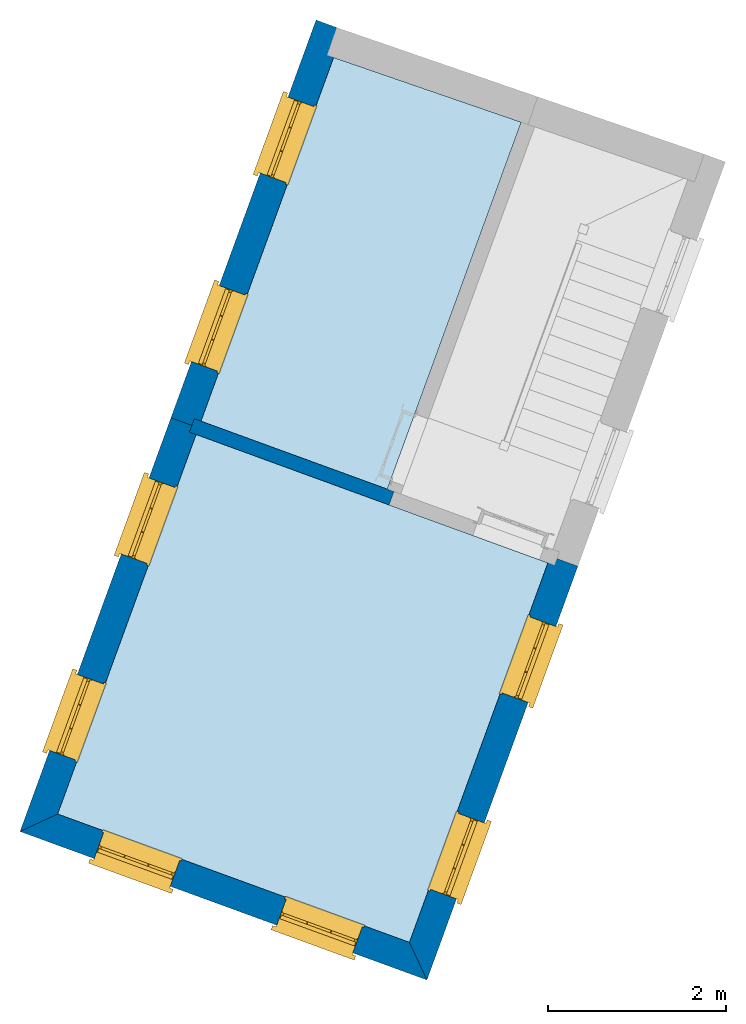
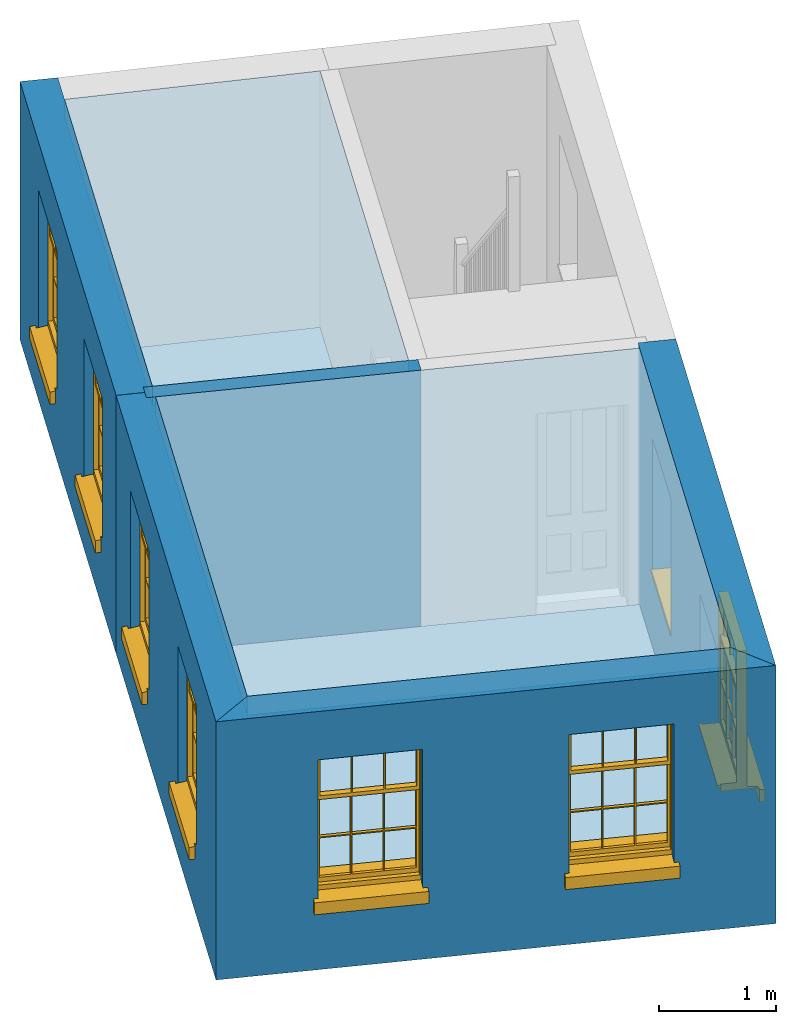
# One storey, part 1 of 2: 8 windows, 5 walls, 4 slabs, 8 openings.
"""IFC4 building model written with IfcOpenShell, lengths in metres."""

from ifc_helpers import new_model, si_unit, frame, origin, origin_with_axes, place, context, subcontext, project, spatial, polyline, outline, extrude, faceted_brep, source, transform, mapped, material, layer, layer_set, layer_usage, type_object, type_shapes, element, fill, save


model = new_model("IFC4")

# Units and contexts
model_context = context("Model", 3, world=origin_with_axes())
body_context = subcontext(model_context, "Body", "Model", "MODEL_VIEW")
ifc_project = project(units=[si_unit("PLANEANGLEUNIT", "RADIAN"), si_unit("MASSUNIT", "GRAM", prefix="KILO"), si_unit("FORCEUNIT", "NEWTON", prefix="KILO"), si_unit("LENGTHUNIT", "METRE"), si_unit("AREAUNIT", "SQUARE_METRE"), si_unit("VOLUMEUNIT", "CUBIC_METRE")], contexts=[model_context, model_context])

# Sites, building, storey
site_1_placement = place(None, origin_with_axes())
site_1 = spatial("IfcSite", under=ifc_project, at=site_1_placement, Name="Tamar")
site_2_placement = place(site_1_placement, origin_with_axes())
site_2 = spatial("IfcSite", under=site_1, at=site_2_placement, Name="Site plot-12", CompositionType="ELEMENT")
building_placement = place(None, origin_with_axes())
building = spatial("IfcBuilding", under=site_2, at=building_placement, Name="Building plot-12", CompositionType="ELEMENT")
storey_placement = place(None, frame((0.0, 0.0, 29.6), z_axis=(0.0, 0.0, 1.0), x_axis=(1.0, 0.0, 0.0)))
storey = spatial("IfcBuildingStorey", under=building, at=storey_placement, Name="plot-12 1", CompositionType="ELEMENT", Elevation=29.6)

# Slabs
slab_1_placement = place(storey_placement, frame((235.425897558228, 305.718815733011, 2.5)))
element("IfcSlab", 1, at=slab_1_placement, inside=storey, Name="My Slab", ObjectType="Slab", PredefinedType="FLOOR", context=body_context, shape_type="SweptSolid", body=[
    extrude(outline(polyline([(0.0, 0.0), (-1.55619557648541, -4.26551805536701), (2.39790390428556, -5.70809830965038), (3.95409948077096, -1.44258025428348), (0.0, 0.0)])), origin_with_axes(), (0.0, 0.0, 1.0), 0.2),
])
slab_2_placement = place(storey_placement, frame((235.425897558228, 305.718815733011, 0.0)))
element("IfcSlab", 2, at=slab_2_placement, inside=storey, Name="My Slab", ObjectType="Slab", PredefinedType="FLOOR", context=body_context, shape_type="SweptSolid", body=[
    extrude(outline(polyline([(0.0, 0.0), (-1.55619557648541, -4.26551805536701), (2.39790390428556, -5.70809830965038), (3.95409948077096, -1.44258025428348), (0.0, 0.0)])), origin_with_axes(), (0.0, 0.0, 1.0), 0.02),
])
slab_3_placement = place(storey_placement, frame((239.080389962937, 309.229694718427, 2.5)))
element("IfcSlab", 3, at=slab_3_placement, inside=storey, Name="My Slab", ObjectType="Slab", PredefinedType="FLOOR", context=body_context, shape_type="SweptSolid", body=[
    extrude(outline(polyline([(0.0, 0.0), (-2.10846795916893, 0.72676009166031), (-3.59965487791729, -3.36056981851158), (-1.50486302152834, -4.12481598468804), (0.0, 0.0)])), origin_with_axes(), (0.0, 0.0, 1.0), 0.2),
])
slab_4_placement = place(storey_placement, frame((239.080389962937, 309.229694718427, 0.0)))
element("IfcSlab", 4, at=slab_4_placement, inside=storey, Name="My Slab", ObjectType="Slab", PredefinedType="FLOOR", context=body_context, shape_type="SweptSolid", body=[
    extrude(outline(polyline([(0.0, 0.0), (-2.10846795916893, 0.72676009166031), (-3.59965487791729, -3.36056981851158), (-1.50486302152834, -4.12481598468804), (0.0, 0.0)])), origin_with_axes(), (0.0, 0.0, 1.0), 0.02),
])

# Wall, openings, windows
ifc_material_1 = material(Name="Masonry")
ifc_layer_1 = layer(ifc_material_1, 0.33, ventilated=False)
ifc_layer_set_1 = layer_set([ifc_layer_1], Name="exterior_0.08_0.25")
ifc_layer_usage_1 = layer_usage(ifc_layer_set_1, "AXIS2", "POSITIVE", -0.25)
wall_type_1 = type_object("IfcWallType", Name="exterior_0.08_0.25", PredefinedType="SOLIDWALL", material=ifc_layer_set_1)
wall_1_placement = place(storey_placement, frame((236.923699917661, 310.05769530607, 0.0), z_axis=(0.0, 0.0, 1.0), x_axis=(-0.342734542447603, -0.939432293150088, 0.0)))
wall_1 = element("IfcWall", 5, at=wall_1_placement, inside=storey, type_object=wall_type_1, material=ifc_layer_usage_1, Name="exterior", context=body_context, shape_type="SweptSolid", body=[
    extrude(outline(polyline([(-0.249999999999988, 0.0800000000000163), (-0.25000000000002, -0.249999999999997), (4.50943219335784, -0.250000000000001), (4.50943219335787, 0.0800000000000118), (-0.249999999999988, 0.0800000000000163)])), origin_with_axes(), (0.0, 0.0, 1.0), 2.7),
])
opening_1_placement = place(wall_1_placement, frame((0.672358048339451, 0.0, 0.75)))
opening_1 = element("IfcOpeningElement", 6, at=opening_1_placement, cuts=wall_1, Name="My Opening", ObjectType="Opening", context=body_context, shape_type="SweptSolid", body=[
    extrude(outline(polyline([(0.0, -0.269999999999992), (0.910000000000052, -0.269999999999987), (0.910000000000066, 1.1), (1.47659662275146e-14, 1.09999999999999), (0.0, -0.269999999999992)])), origin_with_axes(), (0.0, 0.0, 1.0), 1.445),
])
opening_2_placement = place(wall_1_placement, frame((2.92707414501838, 0.0, 0.75)))
opening_2 = element("IfcOpeningElement", 7, at=opening_2_placement, cuts=wall_1, Name="My Opening", ObjectType="Opening", context=body_context, shape_type="SweptSolid", body=[
    extrude(outline(polyline([(0.0, -0.26999999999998), (0.910000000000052, -0.269999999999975), (0.910000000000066, 1.10000000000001), (1.4210854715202e-14, 1.10000000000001), (0.0, -0.26999999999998)])), origin_with_axes(), (0.0, 0.0, 1.0), 1.445),
])
window_type = type_object("IfcWindowType", Name="sash_shorter", PartitioningType="DOUBLE_PANEL_HORIZONTAL", PredefinedType="NOTDEFINED")
shared_shape = source(origin(), body_context, "Body", "Brep", [
    faceted_brep([(0.876875, 0.145, 0.999097), (0.876875, 0.145, 1.411875), (0.9, 0.145, 1.435), (0.033125, 0.145, 1.411875), (0.033125, 0.145, 0.999097), (0.01, 0.145, 1.435), (0.033125, 0.115, 1.411875), (0.01, 0.115, 1.435), (0.033125, 0.115, 0.999097), (0.876875, 0.115, 1.411875), (0.876875, 0.115, 0.999097), (0.9, 0.115, 1.435), (0.033125, 0.145, 0.960972), (0.01, 0.145, 0.960972), (0.033125, 0.145, 0.548195), (0.876875, 0.145, 0.960972), (0.876875, 0.145, 0.548195), (0.9, 0.145, 0.960972), (0.876875, 0.145, 0.538195), (0.876875, 0.145, 0.125417), (0.9, 0.145, 0.077167), (0.033125, 0.145, 0.125417), (0.033125, 0.145, 0.538195), (0.01, 0.145, 0.077167), (0.9, 0.115, 0.960972), (0.01, 0.115, 0.960972), (-0.0425, 0.0, 0.01), (-0.0425, -0.05, 0.001667), (0.0, 0.0, 0.01), (0.9525, 0.0, 0.01), (0.91, 0.0, 0.01), (0.9525, -0.05, 0.001667), (-0.02, 0.33, 0.077167), (0.0, 0.33, 0.077167), (-0.02, 0.36, 0.077167), (0.0, 0.19, 0.077167), (0.01, 0.19, 0.077167), (0.91, 0.19, 0.077167), (0.91, 0.33, 0.077167), (0.9, 0.19, 0.077167), (0.93, 0.33, 0.077167), (0.93, 0.36, 0.077167), (0.01, 0.145, 0.999097), (0.01, 0.175, 0.999097), (0.9, 0.145, 0.999097), (0.9, 0.175, 0.999097), (0.876875, 0.175, 0.125417), (0.876875, 0.175, 0.538195), (0.9, 0.175, 0.077167), (0.876875, 0.175, 0.548195), (0.876875, 0.175, 0.960972), (0.033125, 0.175, 0.125417), (0.01, 0.175, 0.077167), (0.033125, 0.175, 0.538195), (0.033125, 0.175, 0.960972), (0.033125, 0.175, 0.548195), (-0.02, 0.33, 0.052167), (-0.02, 0.36, 0.052167), (0.93, 0.36, 0.052167), (0.93, 0.33, 0.052167), (0.91, 0.33, 0.052167), (0.0, 0.33, 0.052167), (0.91, 0.1, 0.026667), (0.0, 0.1, 0.026667), (-0.0425, -0.05, -0.123333), (0.9525, -0.05, -0.123333), (-0.0425, 0.0, -0.123333), (0.9525, 0.0, -0.123333), (0.01, 0.19, 1.435), (0.9, 0.19, 1.435), (0.0, 0.19, 1.445), (0.91, 0.19, 1.445), (0.01, 0.1, 0.077167), (0.9, 0.1, 0.077167), (0.592292, 0.145, 0.125417), (0.592292, 0.175, 0.125417), (0.317708, 0.175, 0.125417), (0.317708, 0.145, 0.125417), (0.592292, 0.145, 0.548195), (0.317708, 0.145, 0.548195), (0.317708, 0.145, 0.538195), (0.592292, 0.145, 0.538195), (0.592292, 0.175, 0.548195), (0.317708, 0.175, 0.548195), (0.602292, 0.175, 0.548195), (0.602292, 0.145, 0.548195), (0.317708, 0.175, 0.538195), (0.307708, 0.175, 0.125417), (0.307708, 0.175, 0.538195), (0.602292, 0.175, 0.538195), (0.602292, 0.175, 0.125417), (0.592292, 0.175, 0.538195), (0.307708, 0.175, 0.548195), (0.317708, 0.175, 0.960972), (0.307708, 0.175, 0.960972), (0.602292, 0.175, 0.960972), (0.592292, 0.175, 0.960972), (0.307708, 0.145, 0.538195), (0.307708, 0.145, 0.125417), (0.307708, 0.145, 0.548195), (0.307708, 0.145, 0.960972), (0.592292, 0.145, 0.960972), (0.317708, 0.145, 0.960972), (0.602292, 0.145, 0.960972), (0.602292, 0.145, 0.538195), (0.602292, 0.145, 0.125417), (0.317708, 0.115, 1.411875), (0.307708, 0.115, 1.411875), (0.307708, 0.115, 0.999097), (0.317708, 0.115, 0.999097), (0.602292, 0.115, 1.411875), (0.592292, 0.115, 1.411875), (0.592292, 0.115, 0.999097), (0.602292, 0.115, 0.999097), (0.317708, 0.145, 0.999097), (0.307708, 0.145, 0.999097), (0.307708, 0.145, 1.411875), (0.317708, 0.145, 1.411875), (0.602292, 0.145, 0.999097), (0.592292, 0.145, 0.999097), (0.592292, 0.145, 1.411875), (0.602292, 0.145, 1.411875), (0.91, 0.1, 1.445), (0.9, 0.1, 1.435), (0.01, 0.1, 1.435), (0.0, 0.1, 1.445), (0.91, 0.0, 0.0), (0.0, 0.0, 0.0), (0.91, 0.33, 0.0), (0.0, 0.33, 0.0)], [[[0, 1, 2]], [[3, 4, 5]], [[6, 7, 8]], [[9, 10, 11]], [[12, 13, 14]], [[15, 16, 17]], [[18, 19, 20]], [[21, 22, 23]], [[24, 15, 17]], [[13, 12, 25]], [[26, 27, 28]], [[29, 30, 31]], [[32, 33, 34]], [[35, 36, 33]], [[37, 38, 39]], [[40, 41, 38]], [[42, 4, 43]], [[44, 45, 0]], [[46, 47, 48]], [[49, 50, 45]], [[51, 52, 53]], [[54, 55, 43]], [[38, 33, 36, 39]], [[41, 34, 33, 38]], [[56, 32, 34, 57]], [[57, 34, 41, 58]], [[58, 41, 40, 59]], [[57, 58, 60, 61]], [[52, 48, 39, 36]], [[62, 63, 28, 30]], [[27, 31, 30, 28]], [[27, 64, 65, 31]], [[66, 67, 65, 64]], [[2, 5, 68, 69]], [[68, 70, 71, 69]], [[20, 23, 72, 73]], [[73, 72, 63, 62]], [[74, 75, 76, 77]], [[78, 79, 80, 81]], [[78, 82, 83, 79]], [[16, 49, 84, 85]], [[86, 76, 87, 88]], [[89, 90, 75, 91]], [[92, 88, 53, 55]], [[82, 91, 86, 83]], [[93, 83, 92, 94]], [[95, 84, 82, 96]], [[89, 84, 49, 47]], [[97, 88, 87, 98]], [[22, 53, 88, 97]], [[81, 91, 75, 74]], [[80, 86, 91, 81]], [[77, 76, 86, 80]], [[99, 92, 55, 14]], [[100, 94, 92, 99]], [[101, 96, 82, 78]], [[79, 83, 93, 102]], [[85, 84, 95, 103]], [[104, 89, 47, 18]], [[105, 90, 89, 104]], [[104, 18, 16, 85]], [[80, 97, 98, 77]], [[104, 81, 74, 105]], [[103, 101, 78, 85]], [[99, 14, 22, 97]], [[102, 100, 99, 79]], [[106, 107, 108, 109]], [[110, 111, 112, 113]], [[114, 115, 116, 117]], [[118, 119, 120, 121]], [[107, 116, 115, 108]], [[111, 120, 119, 112]], [[109, 114, 117, 106]], [[113, 118, 121, 110]], [[85, 78, 81, 104]], [[84, 89, 91, 82]], [[83, 86, 88, 92]], [[79, 99, 97, 80]], [[109, 112, 119, 114]], [[102, 93, 96, 101]], [[106, 117, 120, 111]], [[98, 87, 51, 21]], [[6, 3, 116, 107]], [[110, 121, 1, 9]], [[19, 46, 90, 105]], [[26, 66, 64, 27]], [[29, 31, 65, 67]], [[25, 24, 112, 109]], [[11, 7, 106, 111]], [[75, 48, 52, 76]], [[43, 45, 96, 93]], [[45, 43, 114, 119]], [[5, 2, 120, 117]], [[24, 25, 102, 101]], [[42, 5, 4]], [[2, 44, 0]], [[49, 45, 48, 47]], [[52, 43, 55, 53]], [[14, 13, 23, 22]], [[20, 17, 16, 18]], [[24, 11, 10]], [[25, 8, 7]], [[8, 4, 3, 6]], [[9, 1, 0, 10]], [[15, 50, 49, 16]], [[18, 47, 46, 19]], [[21, 51, 53, 22]], [[14, 55, 54, 12]], [[44, 2, 69, 45]], [[68, 5, 42, 43]], [[36, 35, 70, 68]], [[39, 69, 71, 37]], [[62, 122, 123, 73]], [[63, 72, 124, 125]], [[8, 108, 115, 4]], [[113, 10, 0, 118]], [[94, 100, 12, 54]], [[17, 20, 73, 24]], [[72, 23, 13, 25]], [[52, 36, 68, 43]], [[69, 39, 48, 45]], [[11, 24, 73, 123]], [[7, 124, 72, 25]], [[23, 77, 98]], [[98, 21, 23]], [[105, 74, 20]], [[20, 19, 105]], [[20, 74, 77, 23]], [[113, 112, 24]], [[24, 10, 113]], [[25, 109, 108]], [[108, 8, 25]], [[110, 9, 11]], [[11, 111, 110]], [[7, 6, 107]], [[107, 106, 7]], [[5, 117, 116]], [[116, 3, 5]], [[121, 120, 2]], [[2, 1, 121]], [[11, 123, 124, 7]], [[122, 125, 124, 123]], [[43, 93, 94]], [[94, 54, 43]], [[96, 45, 95]], [[50, 95, 45]], [[15, 103, 95, 50]], [[48, 75, 90]], [[90, 46, 48]], [[87, 76, 52]], [[52, 51, 87]], [[103, 15, 24]], [[24, 101, 103]], [[100, 102, 25]], [[25, 12, 100]], [[115, 114, 43]], [[43, 4, 115]], [[118, 0, 45]], [[45, 119, 118]], [[71, 70, 125, 122]], [[70, 35, 63, 125]], [[122, 62, 37, 71]], [[126, 67, 66, 127]], [[60, 58, 59]], [[38, 60, 59, 40]], [[61, 56, 57]], [[32, 56, 61, 33]], [[61, 60, 128, 129]], [[62, 60, 38, 37]], [[126, 128, 60, 62]], [[33, 61, 63, 35]], [[61, 129, 127, 63]], [[128, 126, 127, 129]], [[28, 127, 66, 26]], [[63, 127, 28]], [[29, 67, 126, 30]], [[30, 126, 62]]]),
])
type_shapes(window_type, [shared_shape])
window_1_placement = place(storey_placement, frame((236.439612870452, 309.518598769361, 0.75), z_axis=(0.0, 0.0, 1.0), x_axis=(-0.311888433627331, -0.85488338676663, 0.0)))
window_1 = element("IfcWindow", 8, at=window_1_placement, inside=storey, type_object=window_type, Name="toilet outside window", OverallHeight=1.445, OverallWidth=0.91, context=body_context, shape_type="MappedRepresentation", body=[
    mapped(shared_shape, transform((0.0, 0.0, 0.0), scale=1.0)),
])
fill(opening_1, window_1)
window_2_placement = place(storey_placement, frame((235.666843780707, 307.400445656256, 0.75), z_axis=(0.0, 0.0, 1.0), x_axis=(-0.311888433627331, -0.85488338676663, 0.0)))
window_2 = element("IfcWindow", 9, at=window_2_placement, inside=storey, type_object=window_type, Name="toilet outside window", OverallHeight=1.445, OverallWidth=0.91, context=body_context, shape_type="MappedRepresentation", body=[
    mapped(shared_shape, transform((0.0, 0.0, 0.0), scale=1.0)),
])
fill(opening_2, window_2)

wall_2_placement = place(storey_placement, frame((235.378161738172, 305.821389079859, 0.0), z_axis=(0.0, 0.0, 1.0), x_axis=(-0.342734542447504, -0.939432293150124, 0.0)))
wall_2 = element("IfcWall", 10, at=wall_2_placement, inside=storey, type_object=wall_type_1, material=ifc_layer_usage_1, Name="exterior", context=body_context, shape_type="SweptSolid", body=[
    extrude(outline(polyline([(1.07144995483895e-14, 0.0800000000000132), (-5.60509546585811e-14, -0.25), (4.95052738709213, -0.250000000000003), (4.62052738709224, 0.0800000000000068), (1.07144995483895e-14, 0.0800000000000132)])), origin_with_axes(), (0.0, 0.0, 1.0), 2.7),
])
opening_3_placement = place(wall_2_placement, frame((0.720131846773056, 0.0, 0.75)))
opening_3 = element("IfcOpeningElement", 11, at=opening_3_placement, cuts=wall_2, Name="My Opening", ObjectType="Opening", context=body_context, shape_type="SweptSolid", body=[
    extrude(outline(polyline([(0.0, -0.269999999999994), (0.909999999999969, -0.270000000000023), (0.909999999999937, 1.09999999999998), (-3.1863400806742e-14, 1.10000000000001), (0.0, -0.269999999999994)])), origin_with_axes(), (0.0, 0.0, 1.0), 1.445),
])
opening_4_placement = place(wall_2_placement, frame((3.07039554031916, 0.0, 0.75)))
opening_4 = element("IfcOpeningElement", 12, at=opening_4_placement, cuts=wall_2, Name="My Opening", ObjectType="Opening", context=body_context, shape_type="SweptSolid", body=[
    extrude(outline(polyline([(0.0, -0.269999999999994), (0.909999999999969, -0.270000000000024), (0.909999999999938, 1.09999999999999), (-3.10862446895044e-14, 1.10000000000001), (0.0, -0.269999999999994)])), origin_with_axes(), (0.0, 0.0, 1.0), 1.445),
])
window_3_placement = place(storey_placement, frame((234.877700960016, 305.237412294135, 0.75), z_axis=(0.0, 0.0, 1.0), x_axis=(-0.311888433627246, -0.854883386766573, 0.0)))
window_3 = element("IfcWindow", 13, at=window_3_placement, inside=storey, type_object=window_type, Name="bedroom outside window", OverallHeight=1.445, OverallWidth=0.91, context=body_context, shape_type="MappedRepresentation", body=[
    mapped(shared_shape, transform((0.0, 0.0, 0.0), scale=1.0)),
])
fill(opening_3, window_3)
window_4_placement = place(storey_placement, frame((234.072184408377, 303.029498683, 0.75), z_axis=(0.0, 0.0, 1.0), x_axis=(-0.311888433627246, -0.854883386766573, 0.0)))
window_4 = element("IfcWindow", 14, at=window_4_placement, inside=storey, type_object=window_type, Name="bedroom outside window", OverallHeight=1.445, OverallWidth=0.91, context=body_context, shape_type="MappedRepresentation", body=[
    mapped(shared_shape, transform((0.0, 0.0, 0.0), scale=1.0)),
])
fill(opening_4, window_4)

wall_3_placement = place(storey_placement, frame((233.767128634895, 301.405561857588, 0.0), z_axis=(0.0, 0.0, 1.0), x_axis=(0.939432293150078, -0.34273454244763, 0.0)))
wall_3 = element("IfcWall", 15, at=wall_3_placement, inside=storey, type_object=wall_type_1, material=ifc_layer_usage_1, Name="exterior", context=body_context, shape_type="SweptSolid", body=[
    extrude(outline(polyline([(0.0799999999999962, 0.0799999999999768), (-0.24999999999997, -0.249999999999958), (4.61903082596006, -0.24999999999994), (4.28903082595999, 0.0799999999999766), (0.0799999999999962, 0.0799999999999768)])), origin_with_axes(), (0.0, 0.0, 1.0), 2.7),
])
opening_5_placement = place(wall_3_placement, frame((0.637257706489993, 0.0, 0.75)))
opening_5 = element("IfcOpeningElement", 16, at=opening_5_placement, cuts=wall_3, Name="My Opening", ObjectType="Opening", context=body_context, shape_type="SweptSolid", body=[
    extrude(outline(polyline([(0.0, -0.270000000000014), (0.910000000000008, -0.270000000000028), (0.909999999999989, 1.10000000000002), (-1.88737914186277e-14, 1.10000000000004), (0.0, -0.270000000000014)])), origin_with_axes(), (0.0, 0.0, 1.0), 1.445),
])
opening_6_placement = place(wall_3_placement, frame((2.82177311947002, 0.0, 0.75)))
opening_6 = element("IfcOpeningElement", 17, at=opening_6_placement, cuts=wall_3, Name="My Opening", ObjectType="Opening", context=body_context, shape_type="SweptSolid", body=[
    extrude(outline(polyline([(0.0, -0.27000000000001), (0.910000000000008, -0.270000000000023), (0.909999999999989, 1.10000000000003), (-1.86517468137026e-14, 1.10000000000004), (0.0, -0.27000000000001)])), origin_with_axes(), (0.0, 0.0, 1.0), 1.445),
])
window_5_placement = place(storey_placement, frame((234.27325077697, 300.933504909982, 0.75), z_axis=(0.0, 0.0, 1.0), x_axis=(0.854883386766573, -0.31188843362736, 0.0)))
window_5 = element("IfcWindow", 18, at=window_5_placement, inside=storey, type_object=window_type, Name="bedroom outside window", OverallHeight=1.445, OverallWidth=0.91, context=body_context, shape_type="MappedRepresentation", body=[
    mapped(shared_shape, transform((0.0, 0.0, 0.0), scale=1.0)),
])
fill(opening_5, window_5)
window_6_placement = place(storey_placement, frame((236.325455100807, 300.184796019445, 0.75), z_axis=(0.0, 0.0, 1.0), x_axis=(0.854883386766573, -0.31188843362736, 0.0)))
window_6 = element("IfcWindow", 19, at=window_6_placement, inside=storey, type_object=window_type, Name="bedroom outside window", OverallHeight=1.445, OverallWidth=0.91, context=body_context, shape_type="MappedRepresentation", body=[
    mapped(shared_shape, transform((0.0, 0.0, 0.0), scale=1.0)),
])
fill(opening_6, window_6)

wall_4_placement = place(storey_placement, frame((237.87153728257, 299.908144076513, 0.0), z_axis=(0.0, 0.0, 1.0), x_axis=(0.342734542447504, 0.939432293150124, 0.0)))
wall_4 = element("IfcWall", 20, at=wall_4_placement, inside=storey, type_object=wall_type_1, material=ifc_layer_usage_1, Name="exterior", context=body_context, shape_type="SweptSolid", body=[
    extrude(outline(polyline([(0.0799999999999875, 0.0800000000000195), (-0.249999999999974, -0.250000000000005), (4.70052738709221, -0.250000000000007), (4.70052738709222, 0.0800000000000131), (0.0799999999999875, 0.0800000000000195)])), origin_with_axes(), (0.0, 0.0, 1.0), 2.7),
])
opening_7_placement = place(wall_4_placement, frame((0.720131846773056, 0.0, 0.75)))
opening_7 = element("IfcOpeningElement", 21, at=opening_7_placement, cuts=wall_4, Name="My Opening", ObjectType="Opening", context=body_context, shape_type="SweptSolid", body=[
    extrude(outline(polyline([(0.0, -0.269999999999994), (0.909999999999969, -0.270000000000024), (0.909999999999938, 1.09999999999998), (-3.11972669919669e-14, 1.10000000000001), (0.0, -0.269999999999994)])), origin_with_axes(), (0.0, 0.0, 1.0), 1.445),
])
opening_8_placement = place(wall_4_placement, frame((3.07039554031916, 0.0, 0.75)))
opening_8 = element("IfcOpeningElement", 22, at=opening_8_placement, cuts=wall_4, Name="My Opening", ObjectType="Opening", context=body_context, shape_type="SweptSolid", body=[
    extrude(outline(polyline([(0.0, -0.269999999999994), (0.909999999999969, -0.270000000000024), (0.909999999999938, 1.09999999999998), (-3.10862446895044e-14, 1.10000000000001), (0.0, -0.269999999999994)])), origin_with_axes(), (0.0, 0.0, 1.0), 1.445),
])
window_7_placement = place(storey_placement, frame((238.371998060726, 300.492120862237, 0.75), z_axis=(0.0, 0.0, 1.0), x_axis=(0.311888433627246, 0.854883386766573, 0.0)))
window_7 = element("IfcWindow", 23, at=window_7_placement, inside=storey, type_object=window_type, Name="bedroom outside window", OverallHeight=1.445, OverallWidth=0.91, context=body_context, shape_type="MappedRepresentation", body=[
    mapped(shared_shape, transform((0.0, 0.0, 0.0), scale=1.0)),
])
fill(opening_7, window_7)
window_8_placement = place(storey_placement, frame((239.177514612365, 302.700034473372, 0.75), z_axis=(0.0, 0.0, 1.0), x_axis=(0.311888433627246, 0.854883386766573, 0.0)))
window_8 = element("IfcWindow", 24, at=window_8_placement, inside=storey, type_object=window_type, Name="bedroom outside window", OverallHeight=1.445, OverallWidth=0.91, context=body_context, shape_type="MappedRepresentation", body=[
    mapped(shared_shape, transform((0.0, 0.0, 0.0), scale=1.0)),
])
fill(opening_8, window_8)

# Wall
ifc_material_2 = material(Name="Masonry")
ifc_layer_2 = layer(ifc_material_2, 0.16, ventilated=False)
ifc_layer_set_2 = layer_set([ifc_layer_2], Name="interior_0.08_0.08")
ifc_layer_usage_2 = layer_usage(ifc_layer_set_2, "AXIS2", "POSITIVE", -0.08)
wall_type_2 = type_object("IfcWallType", Name="interior_0.08_0.08", PredefinedType="SOLIDWALL", material=ifc_layer_set_2)
wall_5_placement = place(storey_placement, frame((237.623262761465, 305.002305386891, 0.0), z_axis=(0.0, 0.0, 1.0), x_axis=(-0.93943229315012, 0.342734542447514, 0.0)))
element("IfcWall", 25, at=wall_5_placement, inside=storey, type_object=wall_type_2, material=ifc_layer_usage_2, Name="interior", context=body_context, shape_type="SweptSolid", body=[
    extrude(outline(polyline([(1.96514052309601e-14, 0.0799999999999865), (-1.96416080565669e-14, -0.0799999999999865), (2.38984867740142, -0.079999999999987), (2.38984867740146, 0.0799999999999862), (1.96514052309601e-14, 0.0799999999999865)])), origin_with_axes(), (0.0, 0.0, 1.0), 2.7),
])

save(model, "model.ifc")
